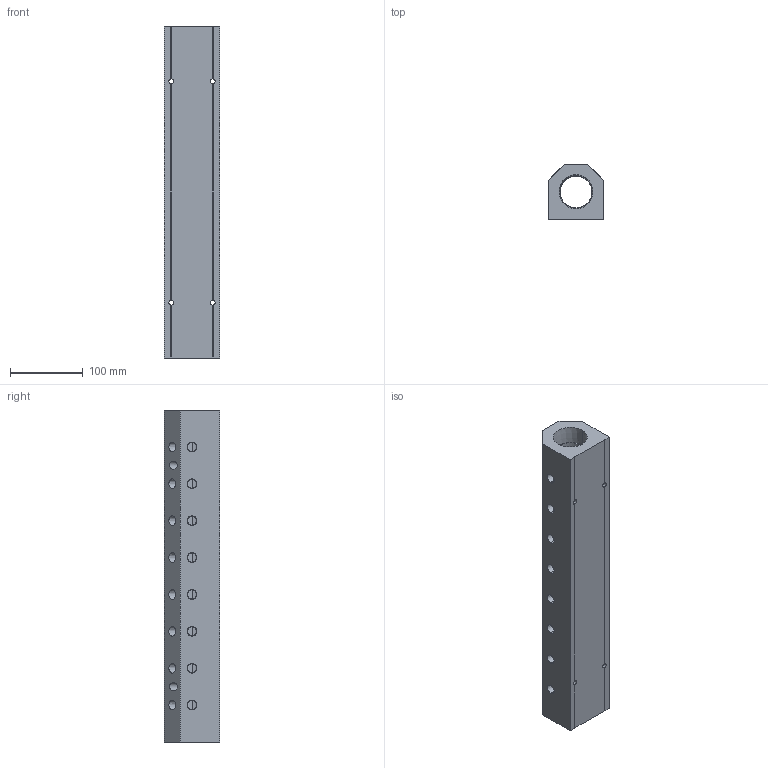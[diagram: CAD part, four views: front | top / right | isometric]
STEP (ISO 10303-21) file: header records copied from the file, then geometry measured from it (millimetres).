
FILE_DESCRIPTION (( 'STEP AP214' ), '1' );
FILE_NAME ('ALM8ABC-N4N24-457R.step', '2022-02-07T07:39:52', ( '' ), ( '' ), 'SwSTEP 2.0', 'SolidWorks 2020', '' );
FILE_SCHEMA (( 'AUTOMOTIVE_DESIGN' ));
Length unit declared in the file: millimetre
Products named in the file (1): ALM8ABC-N4N24-457R
Bounding box: 76.2 x 76.2 x 457 mm (x, y, z)
Volume: 1653141.9 mm3; surface area: 213636.7 mm2
Topology: 1 solids, 1 shells, 364 faces, 978 edges, 644 vertices
Faces by surface type: plane 236, bspline 58, cone 52, cylinder 18
Entity records: 20559 total; most frequent: CARTESIAN_POINT 8309, ORIENTED_EDGE 1956, DIRECTION 1496, EDGE_CURVE 978, VECTOR 714, LINE 714, VERTEX_POINT 644, EDGE_LOOP 450
